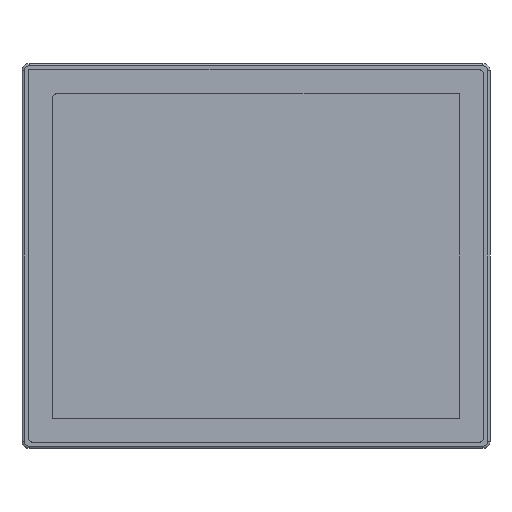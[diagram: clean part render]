
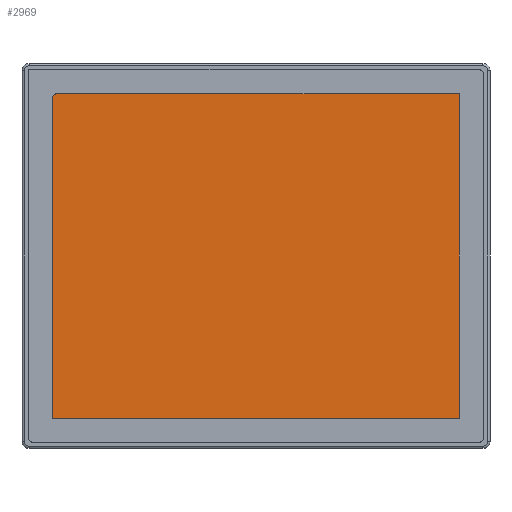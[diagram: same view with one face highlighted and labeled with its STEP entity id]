
A CAD part, front view. The second image highlights one B-rep face of the part: STEP entity #2969.
In plain terms, the highlighted planar face has unit normal (0, -1, 0).
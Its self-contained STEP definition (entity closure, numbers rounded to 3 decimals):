
#77=CIRCLE('',#3106,4.);
#163=ORIENTED_EDGE('',*,*,#727,.T.);
#164=ORIENTED_EDGE('',*,*,#728,.T.);
#165=ORIENTED_EDGE('',*,*,#729,.T.);
#166=ORIENTED_EDGE('',*,*,#730,.T.);
#167=ORIENTED_EDGE('',*,*,#731,.T.);
#727=EDGE_CURVE('',#1009,#1010,#1203,.T.);
#728=EDGE_CURVE('',#1010,#1011,#77,.T.);
#729=EDGE_CURVE('',#1011,#1012,#1204,.T.);
#730=EDGE_CURVE('',#1012,#1013,#1205,.T.);
#731=EDGE_CURVE('',#1013,#1009,#1206,.T.);
#1009=VERTEX_POINT('',#3949);
#1010=VERTEX_POINT('',#3950);
#1011=VERTEX_POINT('',#3952);
#1012=VERTEX_POINT('',#3954);
#1013=VERTEX_POINT('',#3956);
#1203=LINE('',#3948,#1419);
#1204=LINE('',#3953,#1420);
#1205=LINE('',#3955,#1421);
#1206=LINE('',#3957,#1422);
#1419=VECTOR('',#3327,1000.);
#1420=VECTOR('',#3330,1000.);
#1421=VECTOR('',#3331,1000.);
#1422=VECTOR('',#3332,1000.);
#1628=EDGE_LOOP('',(#163,#164,#165,#166,#167));
#1792=FACE_BOUND('',#1628,.T.);
#1956=PLANE('',#3105);
#2969=ADVANCED_FACE('',(#1792),#1956,.T.);
#3105=AXIS2_PLACEMENT_3D('',#3947,#3325,#3326);
#3106=AXIS2_PLACEMENT_3D('',#3951,#3328,#3329);
#3325=DIRECTION('',(0.,-1.,0.));
#3326=DIRECTION('',(0.,0.,-1.));
#3327=DIRECTION('',(-1.,0.,0.));
#3328=DIRECTION('',(0.,-1.,0.));
#3329=DIRECTION('',(0.,0.,-1.));
#3330=DIRECTION('',(0.,0.,-1.));
#3331=DIRECTION('',(1.,0.,0.));
#3332=DIRECTION('',(0.,0.,1.));
#3947=CARTESIAN_POINT('',(0.,0.2,0.));
#3948=CARTESIAN_POINT('',(169.,0.2,135.));
#3949=CARTESIAN_POINT('',(169.,0.2,135.));
#3950=CARTESIAN_POINT('',(-165.,0.2,135.));
#3951=CARTESIAN_POINT('',(-165.,0.2,131.));
#3952=CARTESIAN_POINT('',(-169.,0.2,131.));
#3953=CARTESIAN_POINT('',(-169.,0.2,135.));
#3954=CARTESIAN_POINT('',(-169.,0.2,-135.));
#3955=CARTESIAN_POINT('',(-169.,0.2,-135.));
#3956=CARTESIAN_POINT('',(169.,0.2,-135.));
#3957=CARTESIAN_POINT('',(169.,0.2,-135.));
